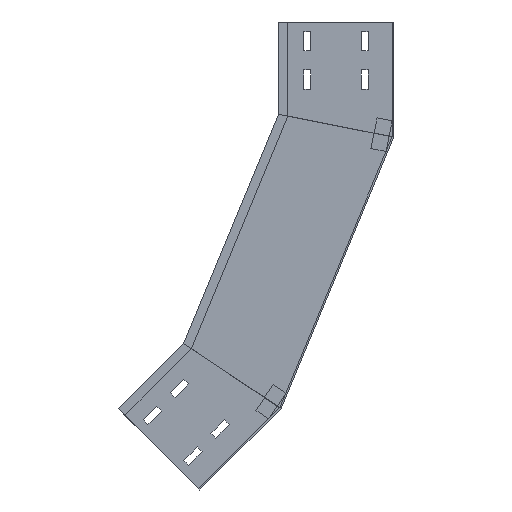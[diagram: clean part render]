
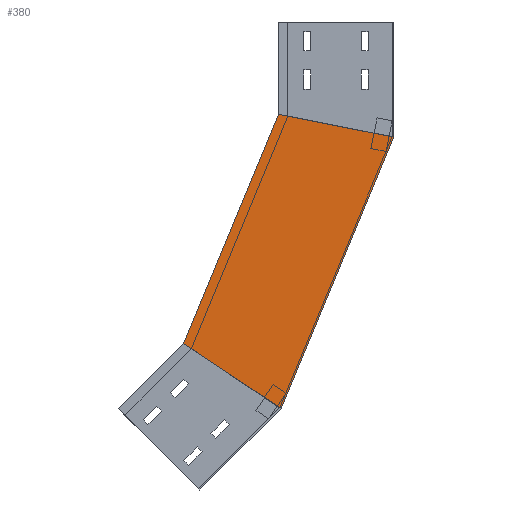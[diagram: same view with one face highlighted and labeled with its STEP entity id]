
A CAD part, left-side view. The second image highlights one B-rep face of the part: STEP entity #380.
In plain terms, the highlighted planar face has unit normal (-1, 0, 0) as drawn and (1, 0, 0) by its records, which use the part's own axes.
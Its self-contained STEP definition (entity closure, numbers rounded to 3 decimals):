
#59 = DIRECTION ( 'NONE',  ( -1., 0., 0. ) ) ;
#72 = CARTESIAN_POINT ( 'NONE',  ( 0., 28.701, -144.291 ) ) ;
#94 = EDGE_CURVE ( 'NONE', #1693, #348, #749, .T. ) ;
#210 = CARTESIAN_POINT ( 'NONE',  ( 0., 146.568, -503.846 ) ) ;
#294 = CARTESIAN_POINT ( 'NONE',  ( 0., 0., -150. ) ) ;
#329 = ORIENTED_EDGE ( 'NONE', *, *, #1086, .F. ) ;
#348 = VERTEX_POINT ( 'NONE', #210 ) ;
#380 = ADVANCED_FACE ( 'NONE', ( #545 ), #994, .F. ) ;
#392 = DIRECTION ( 'NONE',  ( 0., -0.981, -0.195 ) ) ;
#397 = LINE ( 'NONE', #1164, #1418 ) ;
#457 = DIRECTION ( 'NONE',  ( 0., 0.383, -0.924 ) ) ;
#511 = VERTEX_POINT ( 'NONE', #1530 ) ;
#520 = ORIENTED_EDGE ( 'NONE', *, *, #1046, .F. ) ;
#545 = FACE_OUTER_BOUND ( 'NONE', #1250, .T. ) ;
#562 = VECTOR ( 'NONE', #570, 1000. ) ;
#570 = DIRECTION ( 'NONE',  ( 0., 0.383, -0.924 ) ) ;
#656 = VERTEX_POINT ( 'NONE', #1431 ) ;
#749 = LINE ( 'NONE', #1696, #562 ) ;
#757 = LINE ( 'NONE', #1866, #1216 ) ;
#826 = AXIS2_PLACEMENT_3D ( 'NONE', #1456, #59, #1297 ) ;
#912 = ORIENTED_EDGE ( 'NONE', *, *, #94, .T. ) ;
#994 = PLANE ( 'NONE',  #826 ) ;
#1046 = EDGE_CURVE ( 'NONE', #511, #656, #757, .T. ) ;
#1086 = EDGE_CURVE ( 'NONE', #656, #348, #397, .T. ) ;
#1164 = CARTESIAN_POINT ( 'NONE',  ( 0., 208.695, -462.334 ) ) ;
#1216 = VECTOR ( 'NONE', #457, 1000. ) ;
#1250 = EDGE_LOOP ( 'NONE', ( #520, #1307, #912, #329 ) ) ;
#1297 = DIRECTION ( 'NONE',  ( 0., 0., 1. ) ) ;
#1307 = ORIENTED_EDGE ( 'NONE', *, *, #1785, .T. ) ;
#1418 = VECTOR ( 'NONE', #1629, 1000. ) ;
#1431 = CARTESIAN_POINT ( 'NONE',  ( 0., 273.732, -418.878 ) ) ;
#1456 = CARTESIAN_POINT ( 'NONE',  ( 0., 0., -150. ) ) ;
#1486 = VECTOR ( 'NONE', #392, 1000. ) ;
#1530 = CARTESIAN_POINT ( 'NONE',  ( 0., 150., -120.163 ) ) ;
#1629 = DIRECTION ( 'NONE',  ( 0., -0.831, -0.556 ) ) ;
#1693 = VERTEX_POINT ( 'NONE', #294 ) ;
#1696 = CARTESIAN_POINT ( 'NONE',  ( 0., 0., -150. ) ) ;
#1785 = EDGE_CURVE ( 'NONE', #511, #1693, #1820, .T. ) ;
#1820 = LINE ( 'NONE', #72, #1486 ) ;
#1866 = CARTESIAN_POINT ( 'NONE',  ( 0., 138.582, -92.597 ) ) ;
